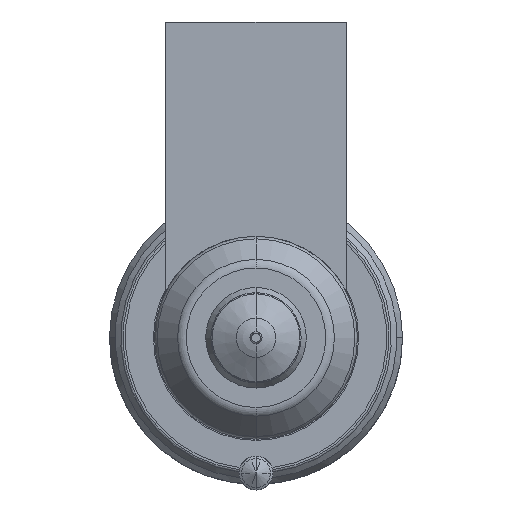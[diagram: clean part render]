
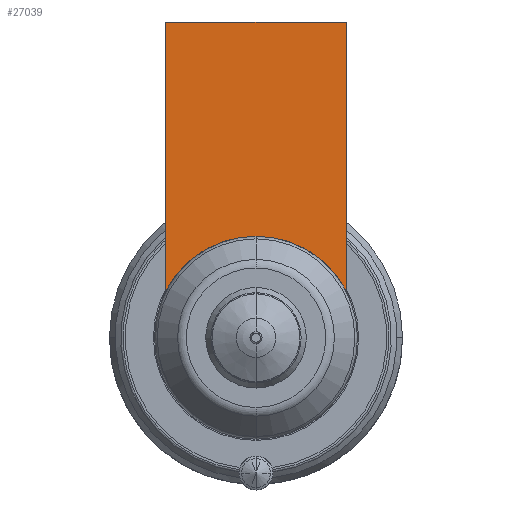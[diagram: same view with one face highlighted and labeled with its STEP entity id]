
A CAD part, front view. The second image highlights one B-rep face of the part: STEP entity #27039.
In plain terms, the highlighted planar face has unit normal (0, -1, 0).
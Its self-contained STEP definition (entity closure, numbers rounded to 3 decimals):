
#26150=DIRECTION('',(1.,0.,0.));
#26151=VECTOR('',#26150,16.);
#26152=CARTESIAN_POINT('',(-8.,-54.,28.));
#26153=LINE('',#26152,#26151);
#26158=CARTESIAN_POINT('',(0.,-54.,0.));
#26159=DIRECTION('',(0.,-1.,0.));
#26160=DIRECTION('',(0.889,0.,0.458));
#26161=AXIS2_PLACEMENT_3D('',#26158,#26159,#26160);
#26166=CARTESIAN_POINT('',(0.,-54.,0.));
#26167=DIRECTION('',(0.,-1.,0.));
#26168=DIRECTION('',(0.,0.,1.));
#26169=AXIS2_PLACEMENT_3D('',#26166,#26167,#26168);
#26195=DIRECTION('',(0.,0.,-1.));
#26196=VECTOR('',#26195,23.877);
#26197=CARTESIAN_POINT('',(-8.,-54.,28.));
#26198=LINE('',#26197,#26196);
#26883=DIRECTION('',(0.,0.,-1.));
#26884=VECTOR('',#26883,23.877);
#26885=CARTESIAN_POINT('',(8.,-54.,28.));
#26886=LINE('',#26885,#26884);
#26936=CARTESIAN_POINT('',(-8.,-54.,28.));
#26937=VERTEX_POINT('',#26936);
#26942=CARTESIAN_POINT('',(8.,-54.,28.));
#26943=VERTEX_POINT('',#26942);
#26946=CARTESIAN_POINT('',(-8.,-54.,4.123));
#26947=VERTEX_POINT('',#26946);
#26950=CARTESIAN_POINT('',(8.,-54.,4.123));
#26951=VERTEX_POINT('',#26950);
#27020=CARTESIAN_POINT('',(0.,-54.,9.));
#27021=VERTEX_POINT('',#27020);
#27022=CARTESIAN_POINT('',(0.,-54.,9.));
#27023=DIRECTION('',(0.,1.,0.));
#27024=DIRECTION('',(0.,0.,-1.));
#27025=AXIS2_PLACEMENT_3D('',#27022,#27023,#27024);
#27026=PLANE('',#27025);
#27028=ORIENTED_EDGE('',*,*,#27027,.F.);
#27030=ORIENTED_EDGE('',*,*,#27029,.T.);
#27032=ORIENTED_EDGE('',*,*,#27031,.T.);
#27034=ORIENTED_EDGE('',*,*,#27033,.T.);
#27036=ORIENTED_EDGE('',*,*,#27035,.T.);
#27037=EDGE_LOOP('',(#27028,#27030,#27032,#27034,#27036));
#27038=FACE_OUTER_BOUND('',#27037,.F.);
#27039=ADVANCED_FACE('',(#27038),#27026,.F.);
#26162=CIRCLE('',#26161,9.);
#26170=CIRCLE('',#26169,9.);
#27027=EDGE_CURVE('',#26937,#26947,#26198,.T.);
#27029=EDGE_CURVE('',#26937,#26943,#26153,.T.);
#27031=EDGE_CURVE('',#26943,#26951,#26886,.T.);
#27033=EDGE_CURVE('',#26951,#27021,#26162,.T.);
#27035=EDGE_CURVE('',#27021,#26947,#26170,.T.);
